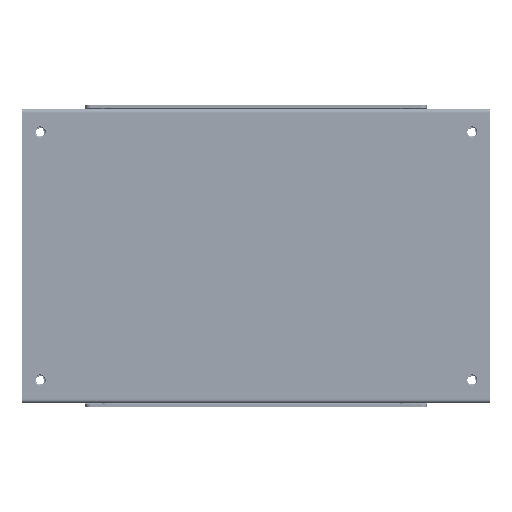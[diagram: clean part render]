
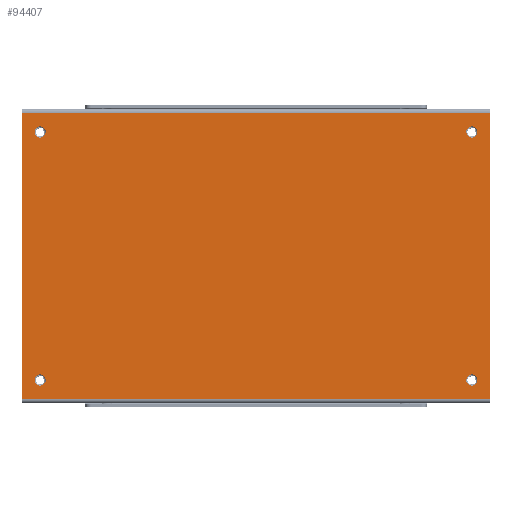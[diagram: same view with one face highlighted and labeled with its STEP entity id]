
A CAD part, front view. The second image highlights one B-rep face of the part: STEP entity #94407.
In plain terms, the highlighted planar face has unit normal (0, -1, 0).
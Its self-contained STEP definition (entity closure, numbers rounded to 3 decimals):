
#348 = VERTEX_POINT ( 'NONE', #65475 ) ;
#466 = CARTESIAN_POINT ( 'NONE',  ( 150.504, 70.465, 80.508 ) ) ;
#2371 = ORIENTED_EDGE ( 'NONE', *, *, #64199, .T. ) ;
#9066 = CARTESIAN_POINT ( 'NONE',  ( 155.514, 70.465, 75.148 ) ) ;
#10477 = EDGE_LOOP ( 'NONE', ( #41402, #63825 ) ) ;
#10665 = CARTESIAN_POINT ( 'NONE',  ( 33.824, 70.465, 78.949 ) ) ;
#11844 = VERTEX_POINT ( 'NONE', #144190 ) ;
#14067 = EDGE_CURVE ( 'NONE', #54359, #37615, #126463, .T. ) ;
#15543 = CARTESIAN_POINT ( 'NONE',  ( 29.782, 70.465, 149.863 ) ) ;
#16297 = EDGE_CURVE ( 'NONE', #141542, #130562, #119163, .T. ) ;
#18839 = EDGE_CURVE ( 'NONE', #58828, #98617, #33464, .T. ) ;
#20550 = AXIS2_PLACEMENT_3D ( 'NONE', #97693, #63901, #84884 ) ;
#21794 = ORIENTED_EDGE ( 'NONE', *, *, #135742, .F. ) ;
#22097 = ORIENTED_EDGE ( 'NONE', *, *, #37719, .T. ) ;
#24297 = LINE ( 'NONE', #108067, #123508 ) ;
#24876 = CIRCLE ( 'NONE', #108907, 1.55 ) ;
#26054 = CIRCLE ( 'NONE', #28551, 1.55 ) ;
#26133 = AXIS2_PLACEMENT_3D ( 'NONE', #65820, #116918, #54700 ) ;
#26455 = CARTESIAN_POINT ( 'NONE',  ( 26.114, 70.465, 75.148 ) ) ;
#28551 = AXIS2_PLACEMENT_3D ( 'NONE', #84294, #123457, #99431 ) ;
#29387 = CIRCLE ( 'NONE', #118579, 1.55 ) ;
#30645 = VECTOR ( 'NONE', #30746, 1000. ) ;
#30746 = DIRECTION ( 'NONE',  ( 0., 0., 1. ) ) ;
#33464 = CIRCLE ( 'NONE', #122629, 1.55 ) ;
#35523 = CIRCLE ( 'NONE', #119574, 1.55 ) ;
#37358 = ORIENTED_EDGE ( 'NONE', *, *, #43129, .T. ) ;
#37615 = VERTEX_POINT ( 'NONE', #92379 ) ;
#37719 = EDGE_CURVE ( 'NONE', #130562, #141542, #82095, .T. ) ;
#39049 = VECTOR ( 'NONE', #126931, 1000. ) ;
#39627 = ORIENTED_EDGE ( 'NONE', *, *, #46938, .T. ) ;
#39734 = VERTEX_POINT ( 'NONE', #142328 ) ;
#40140 = ORIENTED_EDGE ( 'NONE', *, *, #14067, .T. ) ;
#40347 = LINE ( 'NONE', #112983, #30645 ) ;
#40371 = AXIS2_PLACEMENT_3D ( 'NONE', #10665, #58481, #59271 ) ;
#41402 = ORIENTED_EDGE ( 'NONE', *, *, #78063, .T. ) ;
#43129 = EDGE_CURVE ( 'NONE', #98617, #58828, #35523, .T. ) ;
#43562 = DIRECTION ( 'NONE',  ( 0., 1., 0. ) ) ;
#46529 = FACE_BOUND ( 'NONE', #157138, .T. ) ;
#46938 = EDGE_CURVE ( 'NONE', #136770, #11844, #125068, .T. ) ;
#47339 = FACE_BOUND ( 'NONE', #97674, .T. ) ;
#47851 = EDGE_LOOP ( 'NONE', ( #21794, #81565, #2371, #40140 ) ) ;
#50533 = CARTESIAN_POINT ( 'NONE',  ( 32.466, 70.465, 79.733 ) ) ;
#53930 = DIRECTION ( 'NONE',  ( -0.866, 0., 0.5 ) ) ;
#54359 = VERTEX_POINT ( 'NONE', #156017 ) ;
#54524 = CARTESIAN_POINT ( 'NONE',  ( 149.162, 70.465, 149.863 ) ) ;
#54643 = CARTESIAN_POINT ( 'NONE',  ( 26.114, 70.465, 154.448 ) ) ;
#54700 = DIRECTION ( 'NONE',  ( -0.866, 0., 0.5 ) ) ;
#55360 = EDGE_CURVE ( 'NONE', #11844, #136770, #24876, .T. ) ;
#58208 = ORIENTED_EDGE ( 'NONE', *, *, #16297, .T. ) ;
#58481 = DIRECTION ( 'NONE',  ( 0., 1., 0. ) ) ;
#58828 = VERTEX_POINT ( 'NONE', #130590 ) ;
#59271 = DIRECTION ( 'NONE',  ( -0.866, 0., 0.5 ) ) ;
#63825 = ORIENTED_EDGE ( 'NONE', *, *, #143133, .T. ) ;
#63901 = DIRECTION ( 'NONE',  ( 0., 1., 0. ) ) ;
#64199 = EDGE_CURVE ( 'NONE', #120958, #54359, #40347, .T. ) ;
#65475 = CARTESIAN_POINT ( 'NONE',  ( 26.114, 70.465, 75.148 ) ) ;
#65629 = ORIENTED_EDGE ( 'NONE', *, *, #55360, .T. ) ;
#65820 = CARTESIAN_POINT ( 'NONE',  ( 31.124, 70.465, 80.508 ) ) ;
#70415 = FACE_OUTER_BOUND ( 'NONE', #47851, .T. ) ;
#71065 = VERTEX_POINT ( 'NONE', #54524 ) ;
#72794 = DIRECTION ( 'NONE',  ( -0.866, 0., 0.5 ) ) ;
#72981 = DIRECTION ( 'NONE',  ( 0., 1., 0. ) ) ;
#75989 = EDGE_CURVE ( 'NONE', #348, #120958, #135714, .T. ) ;
#78063 = EDGE_CURVE ( 'NONE', #39734, #71065, #29387, .T. ) ;
#81565 = ORIENTED_EDGE ( 'NONE', *, *, #75989, .T. ) ;
#82095 = CIRCLE ( 'NONE', #26133, 1.55 ) ;
#83870 = DIRECTION ( 'NONE',  ( 0., 1., 0. ) ) ;
#83925 = FACE_BOUND ( 'NONE', #10477, .T. ) ;
#84294 = CARTESIAN_POINT ( 'NONE',  ( 150.504, 70.465, 149.088 ) ) ;
#84884 = DIRECTION ( 'NONE',  ( -0.866, 0., 0.5 ) ) ;
#90460 = DIRECTION ( 'NONE',  ( -1., 0., 0. ) ) ;
#92379 = CARTESIAN_POINT ( 'NONE',  ( 26.114, 70.465, 154.448 ) ) ;
#92947 = CARTESIAN_POINT ( 'NONE',  ( 150.504, 70.465, 80.508 ) ) ;
#94407 = ADVANCED_FACE ( 'NONE', ( #47339, #83925, #109522, #70415, #46529 ), #120720, .F. ) ;
#95253 = CARTESIAN_POINT ( 'NONE',  ( 31.124, 70.465, 149.088 ) ) ;
#97674 = EDGE_LOOP ( 'NONE', ( #98722, #37358 ) ) ;
#97693 = CARTESIAN_POINT ( 'NONE',  ( 31.124, 70.465, 149.088 ) ) ;
#98599 = VECTOR ( 'NONE', #90460, 1000. ) ;
#98617 = VERTEX_POINT ( 'NONE', #137799 ) ;
#98722 = ORIENTED_EDGE ( 'NONE', *, *, #18839, .T. ) ;
#99431 = DIRECTION ( 'NONE',  ( -0.866, 0., 0.5 ) ) ;
#105698 = DIRECTION ( 'NONE',  ( 0., 1., 0. ) ) ;
#107889 = CARTESIAN_POINT ( 'NONE',  ( 31.124, 70.465, 80.508 ) ) ;
#108067 = CARTESIAN_POINT ( 'NONE',  ( 26.114, 70.465, 155.448 ) ) ;
#108801 = DIRECTION ( 'NONE',  ( 0., 1., 0. ) ) ;
#108907 = AXIS2_PLACEMENT_3D ( 'NONE', #95253, #105698, #143953 ) ;
#109522 = FACE_BOUND ( 'NONE', #156745, .T. ) ;
#109559 = CARTESIAN_POINT ( 'NONE',  ( 150.504, 70.465, 149.088 ) ) ;
#111540 = AXIS2_PLACEMENT_3D ( 'NONE', #107889, #83870, #119115 ) ;
#112983 = CARTESIAN_POINT ( 'NONE',  ( 155.514, 70.465, 155.448 ) ) ;
#116918 = DIRECTION ( 'NONE',  ( 0., 1., 0. ) ) ;
#118579 = AXIS2_PLACEMENT_3D ( 'NONE', #109559, #108801, #72794 ) ;
#119115 = DIRECTION ( 'NONE',  ( -0.866, 0., 0.5 ) ) ;
#119163 = CIRCLE ( 'NONE', #111540, 1.55 ) ;
#119574 = AXIS2_PLACEMENT_3D ( 'NONE', #92947, #43562, #53930 ) ;
#120720 = PLANE ( 'NONE',  #40371 ) ;
#120958 = VERTEX_POINT ( 'NONE', #9066 ) ;
#122629 = AXIS2_PLACEMENT_3D ( 'NONE', #466, #72981, #156754 ) ;
#123457 = DIRECTION ( 'NONE',  ( 0., 1., 0. ) ) ;
#123508 = VECTOR ( 'NONE', #132815, 1000. ) ;
#125068 = CIRCLE ( 'NONE', #20550, 1.55 ) ;
#126463 = LINE ( 'NONE', #54643, #98599 ) ;
#126931 = DIRECTION ( 'NONE',  ( 1., 0., 0. ) ) ;
#130562 = VERTEX_POINT ( 'NONE', #50533 ) ;
#130590 = CARTESIAN_POINT ( 'NONE',  ( 151.846, 70.465, 79.733 ) ) ;
#132670 = CARTESIAN_POINT ( 'NONE',  ( 29.782, 70.465, 81.283 ) ) ;
#132815 = DIRECTION ( 'NONE',  ( 0., 0., 1. ) ) ;
#135714 = LINE ( 'NONE', #26455, #39049 ) ;
#135742 = EDGE_CURVE ( 'NONE', #348, #37615, #24297, .T. ) ;
#136770 = VERTEX_POINT ( 'NONE', #15543 ) ;
#137799 = CARTESIAN_POINT ( 'NONE',  ( 149.162, 70.465, 81.283 ) ) ;
#141542 = VERTEX_POINT ( 'NONE', #132670 ) ;
#142328 = CARTESIAN_POINT ( 'NONE',  ( 151.846, 70.465, 148.313 ) ) ;
#143133 = EDGE_CURVE ( 'NONE', #71065, #39734, #26054, .T. ) ;
#143953 = DIRECTION ( 'NONE',  ( -0.866, 0., 0.5 ) ) ;
#144190 = CARTESIAN_POINT ( 'NONE',  ( 32.466, 70.465, 148.313 ) ) ;
#156017 = CARTESIAN_POINT ( 'NONE',  ( 155.514, 70.465, 154.448 ) ) ;
#156745 = EDGE_LOOP ( 'NONE', ( #65629, #39627 ) ) ;
#156754 = DIRECTION ( 'NONE',  ( -0.866, 0., 0.5 ) ) ;
#157138 = EDGE_LOOP ( 'NONE', ( #22097, #58208 ) ) ;
